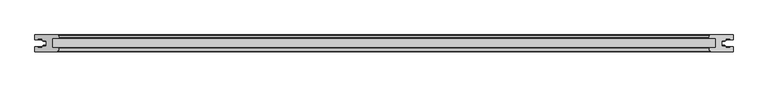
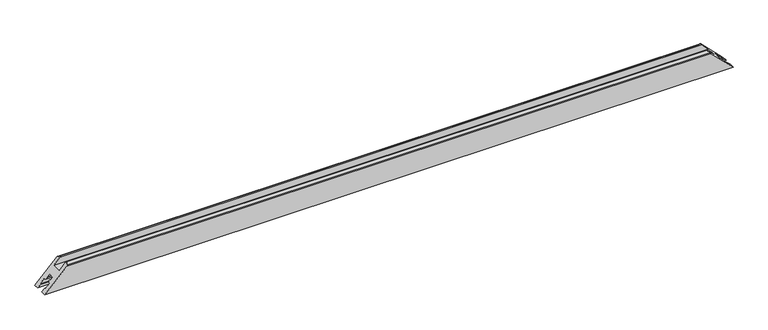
"""IFC4 building model written with IfcOpenShell, lengths in millimetres: proxy geometry, Weiku - Montante - Folha de correr 02.2.01.020 : Weiku - Montante - Folha de correr 02.2.01.020."""

from ifc_helpers import new_model, si_unit, frame, origin, place, context, project, spatial, ellipse_curve, source, transform, mapped, element, save
from ifc_brep_helpers import plane_surface, cylinder_surface, advanced_brep


def generic_models_65b23ab9(model_context):
    return source(origin(), model_context, "Body", "AdvancedBrep", [
        advanced_brep(
        [(1031.5, -50.0, 0.0), (965.0004942, -50.0, 66.4995058), (-965.0004942, -50.0, 66.4995058), (-1031.5, -50.0, 0.0), (-1031.5, -35.5, 0.0), (1031.5, -35.5, 0.0), (-1031.5, 0.0, 0.0), (-963.9879875, 0.0, 67.5120125), (963.9879875, 0.0, 67.5120125), (1031.5, 0.0, 0.0), (-962.1027168, -47.7764571, 69.3972832), (-959.5177981, -38.1294095, 71.9822019), (-960.0007611, -37.5, 71.4992389), (-980.5007611, -37.5, 50.9992389), (-980.5007611, -9.5, 50.9992389), (-960.7141895, -9.5, 70.7858105), (-959.5520406, -7.617411, 71.9479594), (-963.0940268, -0.5518546, 68.4059732), (-1031.5, -14.5, 0.0), (-1022.9, -14.5, 8.6), (-1022.9, -11.7, 8.6), (-1009.7, -11.7, 21.8), (-1009.7, -16.9, 21.8), (-1007.3524152, -16.9, 24.1475848), (-1007.5273926, -18.9, 23.9726074), (-1004.7, -18.9, 26.8), (-1004.7, -16.9, 26.8), (-997.5, -16.9, 34.0), (-997.5, -33.1, 34.0), (-1004.7, -33.1, 26.8), (-1004.7, -31.1, 26.8), (-1007.5273926, -31.1, 23.9726074), (-1007.3524152, -33.1, 24.1475848), (-1009.7, -33.1, 21.8), (-1009.7, -38.3, 21.8), (-1022.9, -38.3, 8.6), (-1022.9, -35.5, 8.6), (1022.9, -35.5, 8.6), (1022.9, -38.3, 8.6), (1009.7, -38.3, 21.8), (1009.7, -33.1, 21.8), (1007.3524152, -33.1, 24.1475848), (1007.5273926, -31.1, 23.9726074), (1004.7, -31.1, 26.8), (1004.7, -33.1, 26.8), (997.5, -33.1, 34.0), (997.5, -16.9, 34.0), (1004.7, -16.9, 26.8), (1004.7, -18.9, 26.8), (1007.5273926, -18.9, 23.9726074), (1007.3524152, -16.9, 24.1475848), (1009.7, -16.9, 21.8), (1009.7, -11.7, 21.8), (1022.9, -11.7, 8.6), (1022.9, -14.5, 8.6), (1031.5, -14.5, 0.0), (963.0940268, -0.5518546, 68.4059732), (959.5520406, -7.617411, 71.9479594), (960.7141895, -9.5, 70.7858105), (980.5007611, -9.5, 50.9992389), (980.5007611, -37.5, 50.9992389), (960.0007611, -37.5, 71.4992389), (959.5177981, -38.1294095, 71.9822019), (962.1027168, -47.7764571, 69.3972832)],
        [
            (0, 1),
            (1, 2),
            (2, 3),
            (3, 0),
            (3, 4),
            (4, 5),
            (5, 0),
            (6, 7),
            (7, 8),
            (8, 9),
            (9, 6),
            (2, 10, ellipse_curve(frame((-965.0004942, -47.0, 66.4995058), z_axis=(-0.7071067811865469, 0.0, 0.7071067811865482), x_axis=(-0.707106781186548, 0.0, -0.7071067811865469)), 4.2426407, 3.0)),
            (10, 11),
            (11, 12, ellipse_curve(frame((-960.0007611, -38.0, 71.4992389), z_axis=(-0.7071067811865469, 0.0, 0.7071067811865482), x_axis=(-0.707106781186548, 0.0, -0.7071067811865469)), 0.7071068, 0.5)),
            (12, 13),
            (13, 14),
            (14, 15),
            (15, 16, ellipse_curve(frame((-960.7141895, -8.2, 70.7858105), z_axis=(-0.7071067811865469, 0.0, 0.7071067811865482), x_axis=(-0.707106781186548, 0.0, -0.7071067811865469)), 1.8384776, 1.3)),
            (16, 17),
            (17, 7, ellipse_curve(frame((-963.9879875, -1.0, 67.5120125), z_axis=(-0.7071067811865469, 0.0, 0.7071067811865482), x_axis=(-0.707106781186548, 0.0, -0.7071067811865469)), 1.4142136, 1.0)),
            (6, 18),
            (18, 19),
            (19, 20),
            (20, 21),
            (21, 22),
            (22, 23),
            (23, 24),
            (24, 25),
            (25, 26),
            (26, 27),
            (27, 28),
            (28, 29),
            (29, 30),
            (30, 31),
            (31, 32),
            (32, 33),
            (33, 34),
            (34, 35),
            (35, 36),
            (36, 4),
            (5, 37),
            (37, 38),
            (38, 39),
            (39, 40),
            (40, 41),
            (41, 42),
            (42, 43),
            (43, 44),
            (44, 45),
            (45, 46),
            (46, 47),
            (47, 48),
            (48, 49),
            (49, 50),
            (50, 51),
            (51, 52),
            (52, 53),
            (53, 54),
            (54, 55),
            (55, 9),
            (8, 56, ellipse_curve(frame((963.9879875, -1.0, 67.5120125), z_axis=(0.7071067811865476, 0.0, 0.7071067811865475), x_axis=(-0.7071067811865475, 0.0, 0.7071067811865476)), 1.4142136, 1.0)),
            (56, 57),
            (57, 58, ellipse_curve(frame((960.7141895, -8.2, 70.7858105), z_axis=(0.7071067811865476, 0.0, 0.7071067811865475), x_axis=(-0.7071067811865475, 0.0, 0.7071067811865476)), 1.8384776, 1.3)),
            (58, 59),
            (59, 60),
            (60, 61),
            (61, 62, ellipse_curve(frame((960.0007611, -38.0, 71.4992389), z_axis=(0.7071067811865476, 0.0, 0.7071067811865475), x_axis=(-0.7071067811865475, 0.0, 0.7071067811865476)), 0.7071068, 0.5)),
            (62, 63),
            (63, 1, ellipse_curve(frame((965.0004942, -47.0, 66.4995058), z_axis=(0.7071067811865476, 0.0, 0.7071067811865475), x_axis=(-0.7071067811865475, 0.0, 0.7071067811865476)), 4.2426407, 3.0)),
            (17, 56),
            (16, 57),
            (15, 58),
            (14, 59),
            (13, 60),
            (12, 61),
            (11, 62),
            (10, 63),
            (36, 37),
            (35, 38),
            (34, 39),
            (33, 40),
            (32, 41),
            (31, 42),
            (30, 43),
            (29, 44),
            (28, 45),
            (27, 46),
            (26, 47),
            (25, 48),
            (24, 49),
            (23, 50),
            (22, 51),
            (21, 52),
            (20, 53),
            (19, 54),
            (18, 55),
        ],
        [
            plane_surface(frame((-1031.5, -50.0, 66.4995058), z_axis=(0.0, -1.0, 0.0), x_axis=(1.0, 0.0, 0.0))),
            plane_surface(frame((-1031.5, -50.0, 0.0), z_axis=(0.0, 0.0, -1.0), x_axis=(1.0, 0.0, 0.0))),
            plane_surface(frame((-1031.5, 0.0, 0.0), z_axis=(0.0, 1.0, 0.0), x_axis=(1.0, 0.0, 0.0))),
            plane_surface(frame((-1059.7842712, 0.0, -28.2842712), z_axis=(-0.7071067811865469, 0.0, 0.7071067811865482), x_axis=(0.0, -1.0, 0.0))),
            plane_surface(frame((951.5, 0.0, 80.0), z_axis=(0.7071067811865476, 0.0, 0.7071067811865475), x_axis=(0.0, -1.0, 0.0))),
            cylinder_surface(frame((-1031.5, -1.0, 67.5120125), z_axis=(-1.0, 0.0, 0.0), x_axis=(0.0, -1.0, 0.0)), 1.0),
            plane_surface(frame((-1031.5, -0.5518546, 68.4059732), z_axis=(0.0, 0.4481453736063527, 0.8939606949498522), x_axis=(1.0, 0.0, 0.0))),
            cylinder_surface(frame((-1031.5, -8.2, 70.7858105), z_axis=(-1.0, 0.0, 0.0), x_axis=(0.0, -1.0, 0.0)), 1.3),
            plane_surface(frame((-1031.5, -9.5, 70.7858105), z_axis=(0.0, -1.0, 0.0), x_axis=(1.0, 0.0, 0.0))),
            plane_surface(frame((-1031.5, -9.5, 50.9992389), z_axis=(0.0, 0.0, 1.0), x_axis=(1.0, 0.0, 0.0))),
            plane_surface(frame((-1031.5, -37.5, 50.9992389), z_axis=(0.0, 1.0, 0.0), x_axis=(1.0, 0.0, 0.0))),
            cylinder_surface(frame((-1031.5, -38.0, 71.4992389), z_axis=(-1.0, 0.0, 0.0), x_axis=(0.0, -1.0, 0.0)), 0.5),
            plane_surface(frame((-1031.5, -38.1294095, 71.9822019), z_axis=(0.0, -0.2588190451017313, 0.9659258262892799), x_axis=(1.0, 0.0, 0.0))),
            cylinder_surface(frame((-1031.5, -47.0, 66.4995058), z_axis=(-1.0, 0.0, 0.0), x_axis=(0.0, -1.0, 0.0)), 3.0),
            plane_surface(frame((-1031.5, -35.5, 0.0), z_axis=(0.0, 1.0, 0.0), x_axis=(1.0, 0.0, 0.0))),
            plane_surface(frame((-1031.5, -35.5, 8.6), z_axis=(0.0, 0.0, 1.0), x_axis=(1.0, 0.0, 0.0))),
            plane_surface(frame((-1031.5, -38.3, 8.6), z_axis=(0.0, 1.0, 0.0), x_axis=(1.0, 0.0, 0.0))),
            plane_surface(frame((-1031.5, -38.3, 21.8), z_axis=(0.0, 0.0, -1.0), x_axis=(1.0, 0.0, 0.0))),
            plane_surface(frame((-1031.5, -33.1, 21.8), z_axis=(0.0, 1.0, 0.0), x_axis=(1.0, 0.0, 0.0))),
            plane_surface(frame((-1031.5, -33.1, 24.1475848), z_axis=(0.0, -0.08715574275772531, -0.9961946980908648), x_axis=(1.0, 0.0, 0.0))),
            plane_surface(frame((-1031.5, -31.1, 23.9726074), z_axis=(0.0, 1.0, 0.0), x_axis=(1.0, 0.0, 0.0))),
            plane_surface(frame((-1031.5, -31.1, 26.8), z_axis=(0.0, 0.0, 1.0), x_axis=(1.0, 0.0, 0.0))),
            plane_surface(frame((-1031.5, -33.1, 26.8), z_axis=(0.0, 1.0, 0.0), x_axis=(1.0, 0.0, 0.0))),
            plane_surface(frame((-1031.5, -33.1, 34.0), z_axis=(0.0, 0.0, -1.0), x_axis=(1.0, 0.0, 0.0))),
            plane_surface(frame((-1031.5, -16.9, 34.0), z_axis=(0.0, -1.0, 0.0), x_axis=(1.0, 0.0, 0.0))),
            plane_surface(frame((-1031.5, -16.9, 26.8), z_axis=(0.0, 0.0, 1.0), x_axis=(1.0, 0.0, 0.0))),
            plane_surface(frame((-1031.5, -18.9, 26.8), z_axis=(0.0, -1.0, 0.0), x_axis=(1.0, 0.0, 0.0))),
            plane_surface(frame((-1031.5, -18.9, 23.9726074), z_axis=(0.0, 0.08715574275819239, -0.9961946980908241), x_axis=(1.0, 0.0, 0.0))),
            plane_surface(frame((-1031.5, -16.9, 24.1475848), z_axis=(0.0, -1.0, 0.0), x_axis=(1.0, 0.0, 0.0))),
            plane_surface(frame((-1031.5, -16.9, 21.8), z_axis=(0.0, 0.0, -1.0), x_axis=(1.0, 0.0, 0.0))),
            plane_surface(frame((-1031.5, -11.7, 21.8), z_axis=(0.0, -1.0, 0.0), x_axis=(1.0, 0.0, 0.0))),
            plane_surface(frame((-1031.5, -11.7, 8.6), z_axis=(0.0, 0.0, 1.0), x_axis=(1.0, 0.0, 0.0))),
            plane_surface(frame((-1031.5, -14.5, 8.6), z_axis=(0.0, -1.0, 0.0), x_axis=(1.0, 0.0, 0.0))),
            plane_surface(frame((-1031.5, -14.5, 0.0), z_axis=(0.0, 0.0, -1.0), x_axis=(1.0, 0.0, 0.0))),
        ],
        [
            (0, [[1, 2, 3, 4]]),
            (1, [[5, 6, 7, -4]]),
            (2, [[8, 9, 10, 11]]),
            (3, [[12, 13, 14, 15, 16, 17, 18, 19, 20, -8, 21, 22, 23, 24, 25, 26, 27, 28, 29, 30, 31, 32, 33, 34, 35, 36, 37, 38, 39, 40, -5, -3]]),
            (4, [[-7, 41, 42, 43, 44, 45, 46, 47, 48, 49, 50, 51, 52, 53, 54, 55, 56, 57, 58, 59, 60, -10, 61, 62, 63, 64, 65, 66, 67, 68, 69, -1]]),
            (5, [[70, -61, -9, -20]]),
            (6, [[71, -62, -70, -19]]),
            (7, [[72, -63, -71, -18]]),
            (8, [[73, -64, -72, -17]]),
            (9, [[74, -65, -73, -16]]),
            (10, [[75, -66, -74, -15]]),
            (11, [[76, -67, -75, -14]]),
            (12, [[77, -68, -76, -13]]),
            (13, [[-2, -69, -77, -12]]),
            (14, [[-40, 78, -41, -6]]),
            (15, [[79, -42, -78, -39]]),
            (16, [[80, -43, -79, -38]]),
            (17, [[81, -44, -80, -37]]),
            (18, [[82, -45, -81, -36]]),
            (19, [[83, -46, -82, -35]]),
            (20, [[84, -47, -83, -34]]),
            (21, [[85, -48, -84, -33]]),
            (22, [[86, -49, -85, -32]]),
            (23, [[87, -50, -86, -31]]),
            (24, [[88, -51, -87, -30]]),
            (25, [[89, -52, -88, -29]]),
            (26, [[90, -53, -89, -28]]),
            (27, [[91, -54, -90, -27]]),
            (28, [[92, -55, -91, -26]]),
            (29, [[93, -56, -92, -25]]),
            (30, [[94, -57, -93, -24]]),
            (31, [[95, -58, -94, -23]]),
            (32, [[-59, -95, -22, 96]]),
            (33, [[-60, -96, -21, -11]]),
        ],
    ),
    ])


if __name__ == "__main__":
    model = new_model("IFC4")
    model_context = context("Model", 3, world=origin())
    ifc_project = project(units=[si_unit("LENGTHUNIT", "METRE", prefix="MILLI")], contexts=[model_context])
    site = spatial("IfcSite", under=ifc_project)
    building = spatial("IfcBuilding", under=site)
    placement = place(None, origin())
    generic_models_shape = generic_models_65b23ab9(model_context)
    element("IfcBuildingElementProxy", 1, Name="Weiku - Montante - Folha de correr 02.2.01.020 : Weiku - Montante - Folha de correr 02.2.01.020", ObjectType="Weiku - Montante - Folha de correr 02.2.01.020 : Weiku - Montante - Folha de correr 02.2.01.020", at=placement, inside=building, context=model_context, shape_type="MappedRepresentation", body=[
        mapped(generic_models_shape, transform((0.0, 0.0, 0.0), x_axis=(1.0, 0.0, 0.0), y_axis=(0.0, 1.0, 0.0), z_axis=(0.0, 0.0, 1.0))),
    ])
    save(model, "model.ifc")
